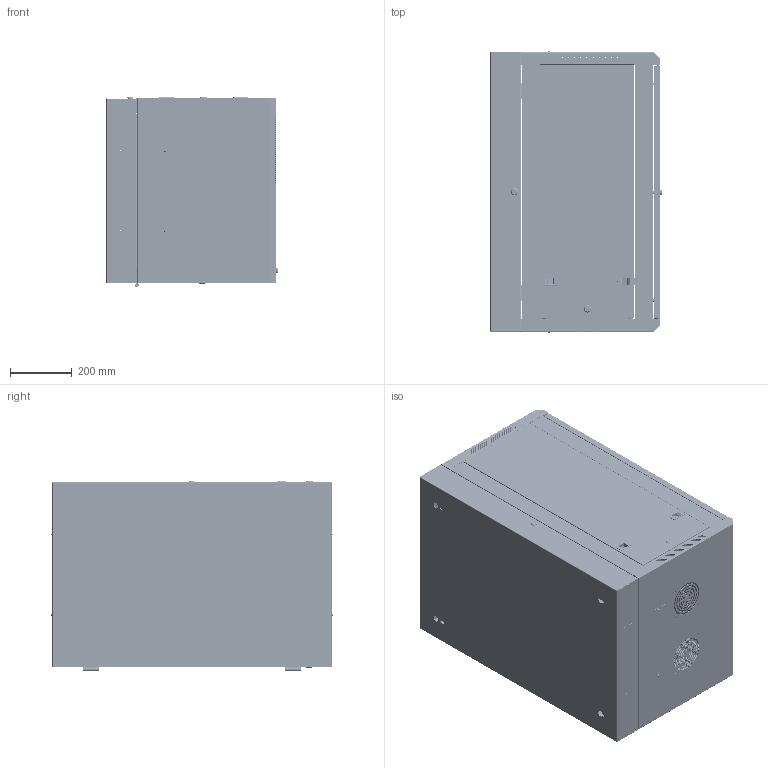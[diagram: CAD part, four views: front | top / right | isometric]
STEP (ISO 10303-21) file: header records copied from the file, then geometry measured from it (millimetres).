
FILE_DESCRIPTION( ( 'Unknown' ), '1' );
FILE_NAME( 'Q:/WEB DRAWINGS/STEP/RB-SW18.stp', 'Unknown', ( 'Unknown' ), ( 'Unknown' ), 'PSStep 16.0.42', 'Unknown', ' ' );
FILE_SCHEMA( ( 'AUTOMOTIVE_DESIGN { 1 0 10303 214 1 1 1 1 }' ) );
Length unit declared in the file: millimetre
Products named in the file (49): ×óÃÅ±ßº¸½Ó; ²£Á§×óÃÅ±ß; ²£Á§Ñ¹Ìõ; ÓÒÃÅ±ßº¸½Ó; ²£Á§ÓÒÃÅ±ß; ²åÏú×ø; M6ÖÐº¸ÂÝ¶¤; ÃÅ×°Åä; ²£Á§; ²åÏú; µ¯»É; »º³åµæ; ½ÓµØ±êÖ¾; lock washer spring extra duty_ai_Extra Duty LW 0.216; flat washer type a narrow_ai_Preferred Narrow FW 0.19; hex nuts, style 1-grades ab gb_GB_FASTENER_NUT_SNAB1 M6-N; wallmountfrontlock; ËøÐ¾-20_0; ÂÝÄ¸ËøÐ¾_0; ²àÃÅËøÆ¬_0; curved single coil spring lock washers gb_GB_FASTENER_WASHER_CSLW 5_0; µæÈ¦M4_0; M4-10_0; 20Ð¡Ô²Ëø; µæÈ¦M4; 15Ð¡Ô²Ëø; ËøÐ¾-20; ÂÝÄ¸ËøÐ¾; ºó¿òËøÆ¬; curved single coil spring lock washers gb_GB_FASTENER_WASHER_CSLW 5; M4-10; Assem1; µ×ÅÌ; ¶¥¸Ç; ºáÖ§¼Ü; Ö§¼Ü; ²àÃÅ; sk; ¸Ç°å; ¸¡¶¯ÂÝÄ¸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
Assembly tree (90 placements, depth 4):
  Assem1
    µ×ÅÌ
    ¶¥¸Ç
    ºáÖ§¼Ü  x4
    Ö§¼Ü  x2
    ²àÃÅ  x2
    sk  x4
    ¸Ç°å  x4
    ¸¡¶¯ÂÝÄ¸  x5
    M4-8  x4
    ½ÓµØ±êÖ¾
    Ö§¼Ü2  x2
    M6ÖÐº¸ÂÝ¶¤
    hex nuts, style 1-grades ab gb_GB_FASTENER_NUT_SNAB1 M6-N
    flat washer type a narrow_ai_Preferred Narrow FW 0.19
    lock washer spring extra duty_ai_Extra Duty LW 0.216
    3MMËÜÁÏµæÈ¦
    M5-10×Ô¹¥ÂÝ¶¤  x8
    ×óÓÒ¿ò  x2
    ºó×ó¿ò
    ºóÓÒ¿ò
    ½ÂÁ´  x2
    ºó±³°å
    ÃÅ×°Åä
      ²£Á§
      ²åÏú  x2
      µ¯»É  x2
      »º³åµæ  x2
      ½ÓµØ±êÖ¾
      lock washer spring extra duty_ai_Extra Duty LW 0.216
      flat washer type a narrow_ai_Preferred Narrow FW 0.19
      hex nuts, style 1-grades ab gb_GB_FASTENER_NUT_SNAB1 M6-N
      ×óÃÅ±ßº¸½Ó
        ²£Á§×óÃÅ±ß
        ²£Á§Ñ¹Ìõ
      ÓÒÃÅ±ßº¸½Ó
        ²£Á§ÓÒÃÅ±ß
        ²£Á§Ñ¹Ìõ
        ²åÏú×ø  x2
        M6ÖÐº¸ÂÝ¶¤
    20Ð¡Ô²Ëø  x2
      µæÈ¦M4
    15Ð¡Ô²Ëø
      ËøÐ¾-20
      ÂÝÄ¸ËøÐ¾
      ºó¿òËøÆ¬
      curved single coil spring lock washers gb_GB_FASTENER_WASHER_CSLW 5
      µæÈ¦M4
      M4-10
    wallmountfrontlock  x3
      ËøÐ¾-20_0
      ÂÝÄ¸ËøÐ¾_0
      ²àÃÅËøÆ¬_0
      curved single coil spring lock washers gb_GB_FASTENER_WASHER_CSLW 5_0
      µæÈ¦M4_0
      M4-10_0
Bounding box: 553.8 x 910.6 x 616.65 mm (x, y, z)
Volume: 5898254.8 mm3; surface area: 7358389.4 mm2
Topology: 94 solids, 110 shells, 8221 faces, 23049 edges, 15078 vertices
Faces by surface type: plane 4940, cylinder 2275, bspline 442, cone 338, extrusion 212, torus 10, sphere 4
Full cylindrical faces by diameter (mm): 0.5 x2, 1.8 x4, 3 x2, 3.2 x16, 3.5 x20, 4 x8, 4.2 x84, 4.917 x2, 5 x160, 5.2 x20, 5.4 x8, 5.5 x1, 5.563 x2, 5.78 x24, 6 x12, 6.3 x5, 7 x5, 8 x23, 10 x8, 11.2 x2, 11.82 x4, 11.9 x2, 12 x2, 12.7 x2, 13 x8, 15 x2, 16 x4, 16.5 x4, 18.5 x4, 20 x2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
Entity records: 165964 total; most frequent: CARTESIAN_POINT 45296, ORIENTED_EDGE 25330, DIRECTION 23538, EDGE_CURVE 12665, VECTOR 8988, LINE 8898, VERTEX_POINT 8477, AXIS2_PLACEMENT_3D 7275
